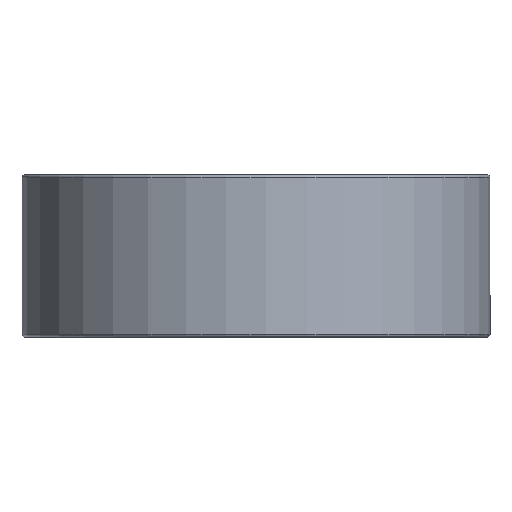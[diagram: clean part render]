
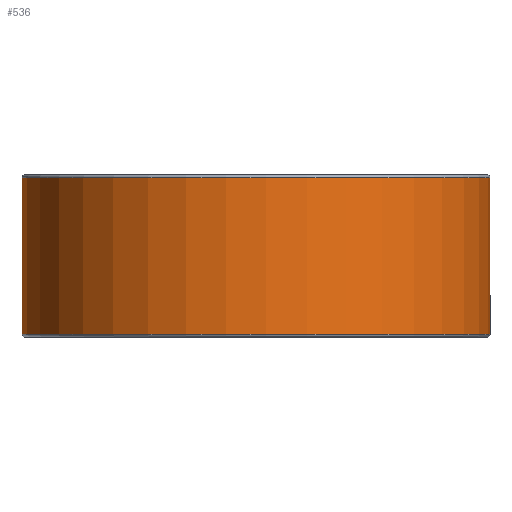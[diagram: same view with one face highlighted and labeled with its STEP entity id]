
A CAD part, front view. The second image highlights one B-rep face of the part: STEP entity #536.
In plain terms, the highlighted cylindrical face has radius 39 mm (diameter 78 mm), a full revolution.
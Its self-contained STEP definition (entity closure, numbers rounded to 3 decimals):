
#536=ADVANCED_FACE('',(#633,#634),#608,.T.);
#608=CYLINDRICAL_SURFACE('',#1367,39.);
#633=FACE_BOUND('',#705,.T.);
#634=FACE_BOUND('',#706,.T.);
#705=EDGE_LOOP('',(#817));
#706=EDGE_LOOP('',(#818));
#817=ORIENTED_EDGE('',*,*,#1169,.T.);
#818=ORIENTED_EDGE('',*,*,#1170,.T.);
#1073=VERTEX_POINT('',#1853);
#1074=VERTEX_POINT('',#1855);
#1169=EDGE_CURVE('',#1073,#1073,#1297,.T.);
#1170=EDGE_CURVE('',#1074,#1074,#1298,.T.);
#1297=CIRCLE('',#1365,39.);
#1298=CIRCLE('',#1366,39.);
#1365=AXIS2_PLACEMENT_3D('',#1852,#1514,#1515);
#1366=AXIS2_PLACEMENT_3D('',#1854,#1516,#1517);
#1367=AXIS2_PLACEMENT_3D('',#1856,#1518,#1519);
#1514=DIRECTION('',(0.,0.,-1.));
#1515=DIRECTION('',(1.,0.,0.));
#1516=DIRECTION('',(0.,0.,1.));
#1517=DIRECTION('',(1.,0.,0.));
#1518=DIRECTION('',(0.,0.,-1.));
#1519=DIRECTION('',(-1.,0.,0.));
#1852=CARTESIAN_POINT('',(0.,0.,26.5));
#1853=CARTESIAN_POINT('',(39.,0.,26.5));
#1854=CARTESIAN_POINT('',(0.,0.,0.5));
#1855=CARTESIAN_POINT('',(39.,0.,0.5));
#1856=CARTESIAN_POINT('',(0.,0.,27.));
